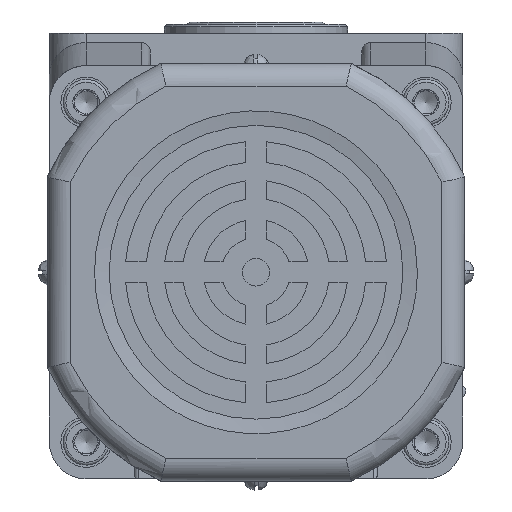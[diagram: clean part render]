
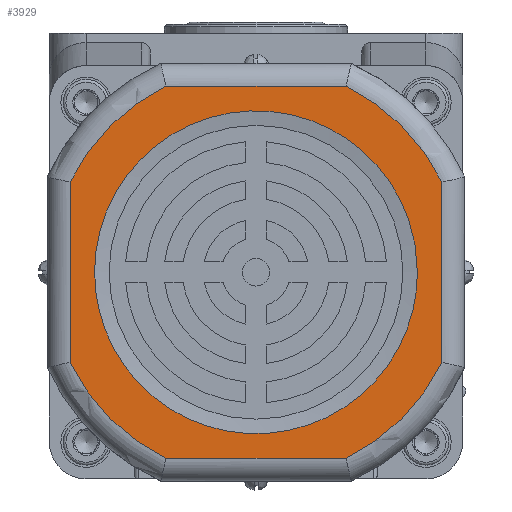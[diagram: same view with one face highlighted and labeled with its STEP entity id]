
A CAD part, front view. The second image highlights one B-rep face of the part: STEP entity #3929.
In plain terms, the highlighted planar face has unit normal (0, -1, 0).
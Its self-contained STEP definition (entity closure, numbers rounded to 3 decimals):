
#753=LINE('',#17972,#1531);
#755=LINE('',#17975,#1533);
#757=LINE('',#17978,#1535);
#760=LINE('',#17982,#1538);
#1531=VECTOR('',#14368,1.);
#1533=VECTOR('',#14372,1.);
#1535=VECTOR('',#14376,1.);
#1538=VECTOR('',#14381,1.);
#2298=B_SPLINE_CURVE_WITH_KNOTS('',3,(#17984,#17985,#17986,#17987,#17988,
#17989,#17990,#17991,#17992,#17993,#17994,#17995,#17996,#17997,#17998,#17999,
#18000,#18001,#18002,#18003,#18004,#18005,#18006,#18007,#18008,#18009,#18010,
#18011,#18012,#18013,#18014,#18015,#18016,#18017),.UNSPECIFIED.,.T.,.F.,
(2,2,2,2,2,2,2,2,2,2,2,2,2,2,2,2,2,2,2),(-0.063,0.,0.063,0.125,0.188,
0.25,0.313,0.375,0.438,0.5,0.563,0.625,0.688,0.75,0.813,0.875,0.938,
1.,1.063),.UNSPECIFIED.);
#3929=ADVANCED_FACE('',(#5015,#5016),#4639,.T.);
#4639=PLANE('',#12902);
#5015=FACE_BOUND('',#5393,.T.);
#5016=FACE_BOUND('',#5394,.T.);
#5393=EDGE_LOOP('',(#6423,#6424,#6425,#6426,#6427,#6428,#6429,#6430));
#5394=EDGE_LOOP('',(#6431));
#6423=ORIENTED_EDGE('',*,*,#10519,.T.);
#6424=ORIENTED_EDGE('',*,*,#10511,.T.);
#6425=ORIENTED_EDGE('',*,*,#10516,.T.);
#6426=ORIENTED_EDGE('',*,*,#10507,.T.);
#6427=ORIENTED_EDGE('',*,*,#10514,.T.);
#6428=ORIENTED_EDGE('',*,*,#10503,.T.);
#6429=ORIENTED_EDGE('',*,*,#10512,.T.);
#6430=ORIENTED_EDGE('',*,*,#10499,.T.);
#6431=ORIENTED_EDGE('',*,*,#10520,.F.);
#9448=VERTEX_POINT('',#17861);
#9450=VERTEX_POINT('',#17876);
#9452=VERTEX_POINT('',#17892);
#9454=VERTEX_POINT('',#17907);
#9456=VERTEX_POINT('',#17923);
#9458=VERTEX_POINT('',#17938);
#9460=VERTEX_POINT('',#17954);
#9462=VERTEX_POINT('',#17969);
#9463=VERTEX_POINT('',#18018);
#10499=EDGE_CURVE('',#9448,#9450,#12045,.T.);
#10503=EDGE_CURVE('',#9452,#9454,#12047,.T.);
#10507=EDGE_CURVE('',#9456,#9458,#12049,.T.);
#10511=EDGE_CURVE('',#9460,#9462,#12051,.T.);
#10512=EDGE_CURVE('',#9454,#9448,#753,.T.);
#10514=EDGE_CURVE('',#9458,#9452,#755,.T.);
#10516=EDGE_CURVE('',#9462,#9456,#757,.T.);
#10519=EDGE_CURVE('',#9450,#9460,#760,.T.);
#10520=EDGE_CURVE('',#9463,#9463,#2298,.T.);
#12045=CIRCLE('',#12887,45.);
#12047=CIRCLE('',#12890,45.);
#12049=CIRCLE('',#12893,45.);
#12051=CIRCLE('',#12896,45.);
#12887=AXIS2_PLACEMENT_3D('',#17877,#14346,#14347);
#12890=AXIS2_PLACEMENT_3D('',#17908,#14352,#14353);
#12893=AXIS2_PLACEMENT_3D('',#17939,#14358,#14359);
#12896=AXIS2_PLACEMENT_3D('',#17970,#14364,#14365);
#12902=AXIS2_PLACEMENT_3D('',#18019,#14384,#14385);
#14346=DIRECTION('',(0.,-1.,0.));
#14347=DIRECTION('',(1.,0.,0.));
#14352=DIRECTION('',(0.,-1.,0.));
#14353=DIRECTION('',(1.,0.,0.));
#14358=DIRECTION('',(0.,-1.,0.));
#14359=DIRECTION('',(1.,0.,0.));
#14364=DIRECTION('',(0.,-1.,0.));
#14365=DIRECTION('',(1.,0.,0.));
#14368=DIRECTION('',(-1.,0.,0.));
#14372=DIRECTION('',(0.,0.,1.));
#14376=DIRECTION('',(1.,0.,0.));
#14381=DIRECTION('',(0.,0.,-1.));
#14384=DIRECTION('',(0.,-1.,0.));
#14385=DIRECTION('',(1.,0.,0.));
#17861=CARTESIAN_POINT('',(-19.615,-234.,-11.5));
#17876=CARTESIAN_POINT('',(-40.5,-234.,-32.385));
#17877=CARTESIAN_POINT('',(0.,-234.,-52.));
#17892=CARTESIAN_POINT('',(40.5,-234.,-32.385));
#17907=CARTESIAN_POINT('',(19.615,-234.,-11.5));
#17908=CARTESIAN_POINT('',(0.,-234.,-52.));
#17923=CARTESIAN_POINT('',(19.615,-234.,-92.5));
#17938=CARTESIAN_POINT('',(40.5,-234.,-71.615));
#17939=CARTESIAN_POINT('',(0.,-234.,-52.));
#17954=CARTESIAN_POINT('',(-40.5,-234.,-71.615));
#17969=CARTESIAN_POINT('',(-19.615,-234.,-92.5));
#17970=CARTESIAN_POINT('',(0.,-234.,-52.));
#17972=CARTESIAN_POINT('',(0.,-234.,-11.5));
#17975=CARTESIAN_POINT('',(40.5,-234.,-16.843));
#17978=CARTESIAN_POINT('',(0.,-234.,-92.5));
#17982=CARTESIAN_POINT('',(-40.5,-234.,-16.843));
#17984=CARTESIAN_POINT('',(35.157,-234.,-56.602));
#17985=CARTESIAN_POINT('',(35.157,-234.,-47.398));
#17986=CARTESIAN_POINT('',(34.242,-234.,-42.798));
#17987=CARTESIAN_POINT('',(30.72,-234.,-34.294));
#17988=CARTESIAN_POINT('',(28.114,-234.,-30.394));
#17989=CARTESIAN_POINT('',(21.606,-234.,-23.886));
#17990=CARTESIAN_POINT('',(17.706,-234.,-21.28));
#17991=CARTESIAN_POINT('',(9.202,-234.,-17.758));
#17992=CARTESIAN_POINT('',(4.602,-234.,-16.843));
#17993=CARTESIAN_POINT('',(-4.602,-234.,-16.843));
#17994=CARTESIAN_POINT('',(-9.202,-234.,-17.758));
#17995=CARTESIAN_POINT('',(-17.706,-234.,-21.28));
#17996=CARTESIAN_POINT('',(-21.606,-234.,-23.886));
#17997=CARTESIAN_POINT('',(-28.114,-234.,-30.394));
#17998=CARTESIAN_POINT('',(-30.72,-234.,-34.294));
#17999=CARTESIAN_POINT('',(-34.242,-234.,-42.798));
#18000=CARTESIAN_POINT('',(-35.157,-234.,-47.398));
#18001=CARTESIAN_POINT('',(-35.157,-234.,-56.602));
#18002=CARTESIAN_POINT('',(-34.242,-234.,-61.202));
#18003=CARTESIAN_POINT('',(-30.72,-234.,-69.706));
#18004=CARTESIAN_POINT('',(-28.114,-234.,-73.606));
#18005=CARTESIAN_POINT('',(-21.606,-234.,-80.114));
#18006=CARTESIAN_POINT('',(-17.706,-234.,-82.72));
#18007=CARTESIAN_POINT('',(-9.202,-234.,-86.242));
#18008=CARTESIAN_POINT('',(-4.602,-234.,-87.157));
#18009=CARTESIAN_POINT('',(4.602,-234.,-87.157));
#18010=CARTESIAN_POINT('',(9.202,-234.,-86.242));
#18011=CARTESIAN_POINT('',(17.706,-234.,-82.72));
#18012=CARTESIAN_POINT('',(21.606,-234.,-80.114));
#18013=CARTESIAN_POINT('',(28.114,-234.,-73.606));
#18014=CARTESIAN_POINT('',(30.72,-234.,-69.706));
#18015=CARTESIAN_POINT('',(34.242,-234.,-61.202));
#18016=CARTESIAN_POINT('',(35.157,-234.,-56.602));
#18017=CARTESIAN_POINT('',(35.157,-234.,-47.398));
#18018=CARTESIAN_POINT('',(35.157,-234.,-52.));
#18019=CARTESIAN_POINT('',(0.,-234.,-16.843));
